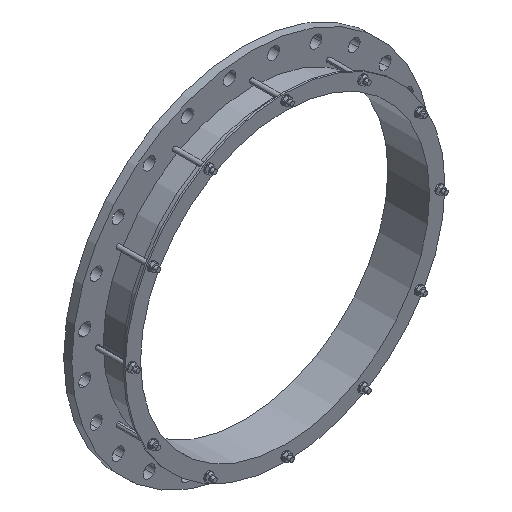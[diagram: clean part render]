
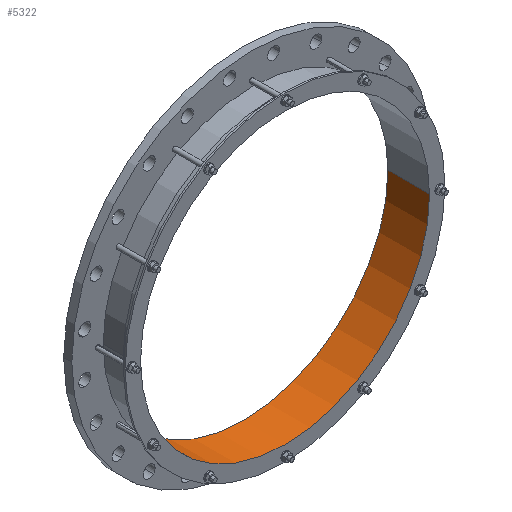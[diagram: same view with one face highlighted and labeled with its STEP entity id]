
A CAD part, isometric view. The second image highlights one B-rep face of the part: STEP entity #5322.
In plain terms, the highlighted cylindrical face has radius 408 mm (diameter 816 mm), a partial arc.
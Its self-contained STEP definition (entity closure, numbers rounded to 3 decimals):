
#7=CARTESIAN_POINT('',(0.,23.,0.));
#8=DIRECTION('',(0.,1.,0.));
#9=DIRECTION('',(1.,0.,0.));
#10=AXIS2_PLACEMENT_3D('',#7,#8,#9);
#1440=CARTESIAN_POINT('',(0.,-94.452,0.));
#1441=DIRECTION('',(0.,1.,0.));
#1442=DIRECTION('',(1.,0.,0.));
#1443=AXIS2_PLACEMENT_3D('',#1440,#1441,#1442);
#1445=DIRECTION('',(0.,1.,0.));
#1446=VECTOR('',#1445,117.452);
#1447=CARTESIAN_POINT('',(408.,-94.452,0.));
#1448=LINE('',#1447,#1446);
#1449=DIRECTION('',(0.,1.,0.));
#1450=VECTOR('',#1449,117.452);
#1451=CARTESIAN_POINT('',(-408.,-94.452,0.));
#1452=LINE('',#1451,#1450);
#3594=CARTESIAN_POINT('',(408.,-94.452,0.));
#3595=CARTESIAN_POINT('',(408.,23.,0.));
#3596=VERTEX_POINT('',#3594);
#3597=VERTEX_POINT('',#3595);
#3606=CARTESIAN_POINT('',(-408.,-94.452,0.));
#3607=CARTESIAN_POINT('',(-408.,23.,0.));
#3608=VERTEX_POINT('',#3606);
#3609=VERTEX_POINT('',#3607);
#5309=CARTESIAN_POINT('',(0.,-100.325,0.));
#5310=DIRECTION('',(0.,1.,0.));
#5311=DIRECTION('',(-1.,0.,0.));
#5312=AXIS2_PLACEMENT_3D('',#5309,#5310,#5311);
#5313=CYLINDRICAL_SURFACE('',#5312,408.);
#5315=ORIENTED_EDGE('',*,*,#5314,.F.);
#5316=ORIENTED_EDGE('',*,*,#5232,.T.);
#5318=ORIENTED_EDGE('',*,*,#5317,.T.);
#5319=ORIENTED_EDGE('',*,*,#4435,.F.);
#5320=EDGE_LOOP('',(#5315,#5316,#5318,#5319));
#5321=FACE_OUTER_BOUND('',#5320,.F.);
#5322=ADVANCED_FACE('',(#5321),#5313,.F.);
#11=CIRCLE('',#10,408.);
#1444=CIRCLE('',#1443,408.);
#4435=EDGE_CURVE('',#3597,#3609,#11,.T.);
#5232=EDGE_CURVE('',#3596,#3608,#1444,.T.);
#5314=EDGE_CURVE('',#3596,#3597,#1448,.T.);
#5317=EDGE_CURVE('',#3608,#3609,#1452,.T.);
